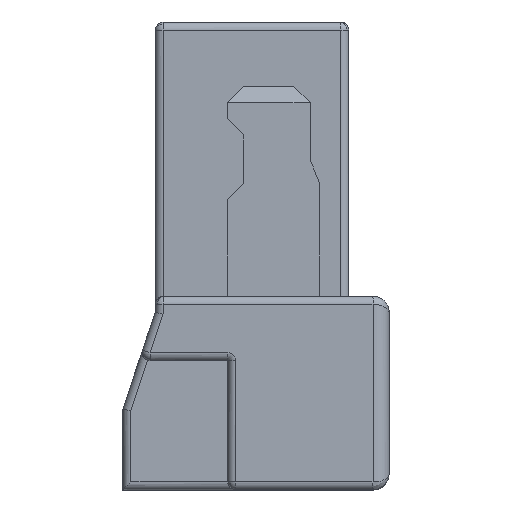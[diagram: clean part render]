
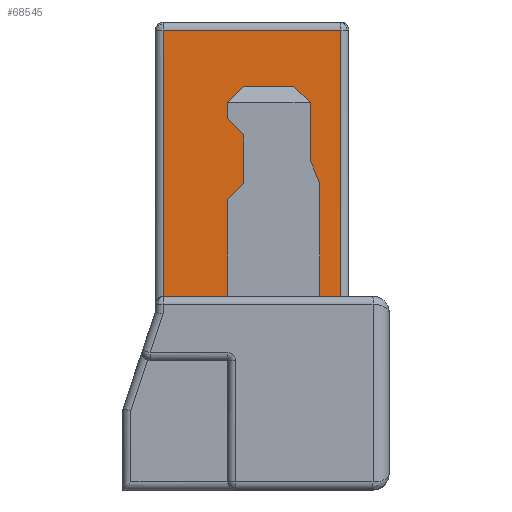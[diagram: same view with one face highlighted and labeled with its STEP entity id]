
A CAD part, left-side view. The second image highlights one B-rep face of the part: STEP entity #68545.
In plain terms, the highlighted planar face has unit normal (-1, 0, 0).
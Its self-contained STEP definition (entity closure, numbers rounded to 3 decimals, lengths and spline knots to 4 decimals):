
#17618=DIRECTION('',(0.,-1.,0.));
#17619=VECTOR('',#17618,1.1);
#17620=CARTESIAN_POINT('',(-16.09,1.4,2.85));
#17621=LINE('',#17620,#17619);
#17626=DIRECTION('',(0.,0.,-1.));
#17627=VECTOR('',#17626,0.354);
#17628=CARTESIAN_POINT('',(-16.09,0.49,2.4));
#17629=LINE('',#17628,#17627);
#17630=DIRECTION('',(0.,-0.707,-0.707));
#17631=VECTOR('',#17630,0.1414);
#17632=CARTESIAN_POINT('',(-16.09,0.59,2.5));
#17633=LINE('',#17632,#17631);
#17634=DIRECTION('',(0.,-0.707,0.707));
#17635=VECTOR('',#17634,0.1414);
#17636=CARTESIAN_POINT('',(-16.09,1.,2.4));
#17637=LINE('',#17636,#17635);
#17638=DIRECTION('',(0.,0.707,0.707));
#17639=VECTOR('',#17638,0.1414);
#17640=CARTESIAN_POINT('',(-16.09,0.9,2.2));
#17641=LINE('',#17640,#17639);
#17642=DIRECTION('',(0.,-0.707,0.707));
#17643=VECTOR('',#17642,0.1414);
#17644=CARTESIAN_POINT('',(-16.09,1.,1.8));
#17645=LINE('',#17644,#17643);
#17646=DIRECTION('',(0.,-1.,0.));
#17647=VECTOR('',#17646,0.4);
#17648=CARTESIAN_POINT('',(-16.09,1.4,1.2));
#17649=LINE('',#17648,#17647);
#17650=DIRECTION('',(0.,-1.,0.));
#17651=VECTOR('',#17650,0.13);
#17652=CARTESIAN_POINT('',(-16.09,0.43,1.2));
#17653=LINE('',#17652,#17651);
#17654=DIRECTION('',(0.,-0.38,-0.925));
#17655=VECTOR('',#17654,0.1578);
#17656=CARTESIAN_POINT('',(-16.09,0.49,2.046));
#17657=LINE('',#17656,#17655);
#17674=DIRECTION('',(0.,0.,1.));
#17675=VECTOR('',#17674,0.7);
#17676=CARTESIAN_POINT('',(-16.09,0.43,1.2));
#17677=LINE('',#17676,#17675);
#17714=DIRECTION('',(0.,0.,-1.));
#17715=VECTOR('',#17714,0.6);
#17716=CARTESIAN_POINT('',(-16.09,1.,1.8));
#17717=LINE('',#17716,#17715);
#17730=DIRECTION('',(0.,0.,-1.));
#17731=VECTOR('',#17730,0.3);
#17732=CARTESIAN_POINT('',(-16.09,0.9,2.2));
#17733=LINE('',#17732,#17731);
#17746=DIRECTION('',(0.,0.,-1.));
#17747=VECTOR('',#17746,0.1);
#17748=CARTESIAN_POINT('',(-16.09,1.,2.4));
#17749=LINE('',#17748,#17747);
#17762=DIRECTION('',(0.,1.,0.));
#17763=VECTOR('',#17762,0.31);
#17764=CARTESIAN_POINT('',(-16.09,0.59,2.5));
#17765=LINE('',#17764,#17763);
#17782=DIRECTION('',(0.,0.,1.));
#17783=VECTOR('',#17782,1.65);
#17784=CARTESIAN_POINT('',(-16.09,1.4,1.2));
#17785=LINE('',#17784,#17783);
#20131=CARTESIAN_POINT('',(-16.09,1.4,1.2));
#20250=DIRECTION('',(0.,0.,-1.));
#20251=VECTOR('',#20250,1.65);
#20252=CARTESIAN_POINT('',(-16.09,0.3,2.85));
#20253=LINE('',#20252,#20251);
#42828=VERTEX_POINT('',#20131);
#42836=CARTESIAN_POINT('',(-16.09,0.9,2.2));
#42838=VERTEX_POINT('',#42836);
#42840=CARTESIAN_POINT('',(-16.09,1.,2.3));
#42841=VERTEX_POINT('',#42840);
#42844=CARTESIAN_POINT('',(-16.09,0.59,2.5));
#42845=CARTESIAN_POINT('',(-16.09,0.49,2.4));
#42846=VERTEX_POINT('',#42844);
#42847=VERTEX_POINT('',#42845);
#42848=CARTESIAN_POINT('',(-16.09,0.9,2.5));
#42849=VERTEX_POINT('',#42848);
#42850=CARTESIAN_POINT('',(-16.09,1.,2.4));
#42851=VERTEX_POINT('',#42850);
#42852=CARTESIAN_POINT('',(-16.09,0.9,1.9));
#42853=VERTEX_POINT('',#42852);
#42854=CARTESIAN_POINT('',(-16.09,1.,1.8));
#42855=VERTEX_POINT('',#42854);
#42856=CARTESIAN_POINT('',(-16.09,1.,1.2));
#42857=VERTEX_POINT('',#42856);
#42858=CARTESIAN_POINT('',(-16.09,1.4,2.85));
#42859=VERTEX_POINT('',#42858);
#42860=CARTESIAN_POINT('',(-16.09,0.3,2.85));
#42861=VERTEX_POINT('',#42860);
#42862=CARTESIAN_POINT('',(-16.09,0.3,1.2));
#42863=VERTEX_POINT('',#42862);
#42864=CARTESIAN_POINT('',(-16.09,0.43,1.2));
#42865=VERTEX_POINT('',#42864);
#42866=CARTESIAN_POINT('',(-16.09,0.43,1.9));
#42867=VERTEX_POINT('',#42866);
#42868=CARTESIAN_POINT('',(-16.09,0.49,2.046));
#42869=VERTEX_POINT('',#42868);
#68509=CARTESIAN_POINT('',(-16.09,0.715,1.8));
#68510=DIRECTION('',(1.,0.,0.));
#68511=DIRECTION('',(0.,1.,0.));
#68512=AXIS2_PLACEMENT_3D('',#68509,#68510,#68511);
#68513=PLANE('',#68512);
#68515=ORIENTED_EDGE('',*,*,#68514,.F.);
#68517=ORIENTED_EDGE('',*,*,#68516,.F.);
#68519=ORIENTED_EDGE('',*,*,#68518,.T.);
#68521=ORIENTED_EDGE('',*,*,#68520,.F.);
#68523=ORIENTED_EDGE('',*,*,#68522,.T.);
#68525=ORIENTED_EDGE('',*,*,#68524,.F.);
#68527=ORIENTED_EDGE('',*,*,#68526,.T.);
#68529=ORIENTED_EDGE('',*,*,#68528,.F.);
#68531=ORIENTED_EDGE('',*,*,#68530,.T.);
#68532=ORIENTED_EDGE('',*,*,#48641,.F.);
#68534=ORIENTED_EDGE('',*,*,#68533,.T.);
#68535=ORIENTED_EDGE('',*,*,#68498,.T.);
#68537=ORIENTED_EDGE('',*,*,#68536,.T.);
#68538=ORIENTED_EDGE('',*,*,#48649,.F.);
#68540=ORIENTED_EDGE('',*,*,#68539,.T.);
#68542=ORIENTED_EDGE('',*,*,#68541,.F.);
#68543=EDGE_LOOP('',(#68515,#68517,#68519,#68521,#68523,#68525,#68527,#68529,
#68531,#68532,#68534,#68535,#68537,#68538,#68540,#68542));
#68544=FACE_OUTER_BOUND('',#68543,.F.);
#68545=ADVANCED_FACE('',(#68544),#68513,.F.);
#48641=EDGE_CURVE('',#42828,#42857,#17649,.T.);
#48649=EDGE_CURVE('',#42865,#42863,#17653,.T.);
#68498=EDGE_CURVE('',#42859,#42861,#17621,.T.);
#68514=EDGE_CURVE('',#42847,#42869,#17629,.T.);
#68516=EDGE_CURVE('',#42846,#42847,#17633,.T.);
#68518=EDGE_CURVE('',#42846,#42849,#17765,.T.);
#68520=EDGE_CURVE('',#42851,#42849,#17637,.T.);
#68522=EDGE_CURVE('',#42851,#42841,#17749,.T.);
#68524=EDGE_CURVE('',#42838,#42841,#17641,.T.);
#68526=EDGE_CURVE('',#42838,#42853,#17733,.T.);
#68528=EDGE_CURVE('',#42855,#42853,#17645,.T.);
#68530=EDGE_CURVE('',#42855,#42857,#17717,.T.);
#68533=EDGE_CURVE('',#42828,#42859,#17785,.T.);
#68536=EDGE_CURVE('',#42861,#42863,#20253,.T.);
#68539=EDGE_CURVE('',#42865,#42867,#17677,.T.);
#68541=EDGE_CURVE('',#42869,#42867,#17657,.T.);
